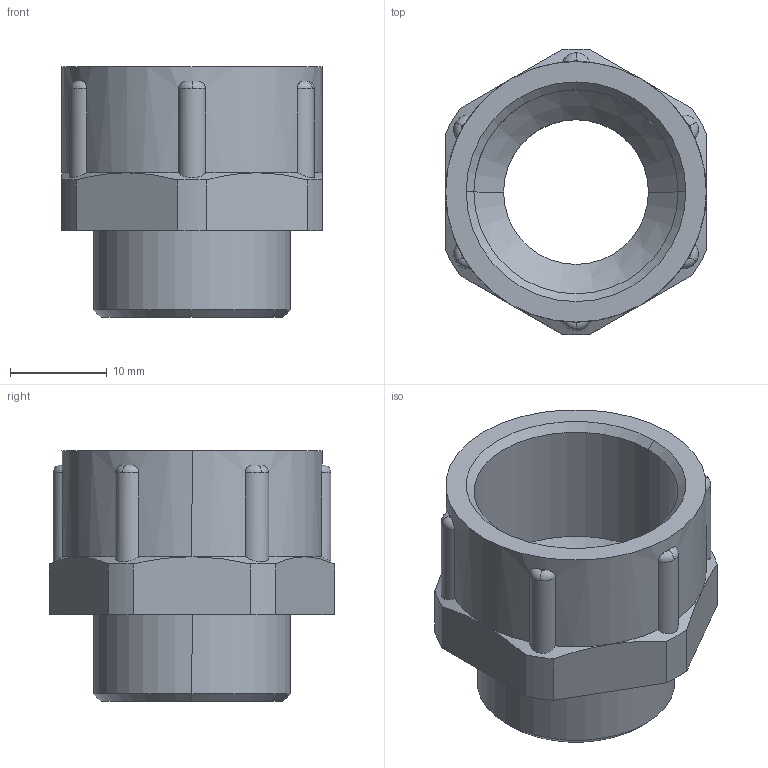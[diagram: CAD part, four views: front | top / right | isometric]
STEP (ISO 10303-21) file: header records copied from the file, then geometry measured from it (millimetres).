
FILE_DESCRIPTION (( 'STEP AP203' ), '1' );
FILE_NAME ('1316 PA.STEP', '2007-01-10T06:44:29', ( ' ' ), ( '' ), 'SwSTEP 2.0', 'SolidWorks 2005278', '' );
FILE_SCHEMA (( 'CONFIG_CONTROL_DESIGN' ));
Length unit declared in the file: millimetre
Products named in the file (1): 1316 PA
Bounding box: 27 x 29.58 x 26 mm (x, y, z)
Volume: 5735.9 mm3; surface area: 4339.6 mm2
Topology: 1 solids, 1 shells, 96 faces, 254 edges, 164 vertices
Faces by surface type: plane 52, cylinder 20, cone 12, torus 12
Entity records: 3283 total; most frequent: CARTESIAN_POINT 809, ORIENTED_EDGE 508, DIRECTION 496, EDGE_CURVE 254, AXIS2_PLACEMENT_3D 175, VERTEX_POINT 164, LINE 146, VECTOR 146
